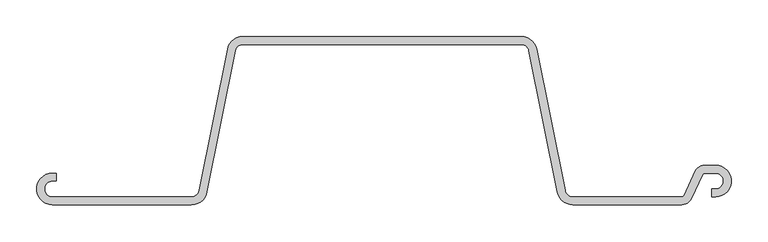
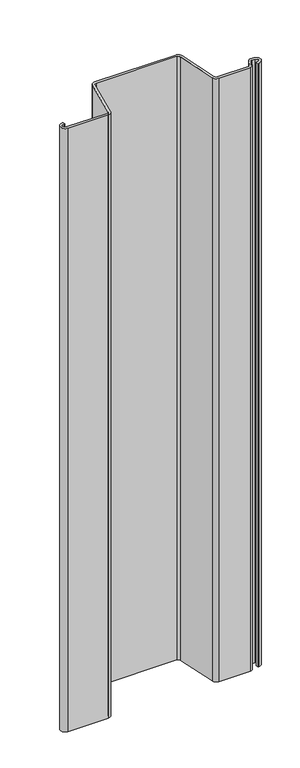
"""IFC4 building model written with IfcOpenShell, lengths in millimetres: proxy geometry, 鋼矢板10H型 : 鋼矢板10H型."""

from ifc_helpers import new_model, si_unit, point, frame, frame_2d, origin, place, context, project, spatial, polyline, circle_curve, trimmed, segment, composite_curve, outline, extrude, source, transform, mapped, element, save


def generic_models_baafeade(model_context):
    return source(origin(), model_context, "Body", "SweptSolid", [
        extrude(outline(composite_curve([segment(trimmed(circle_curve(frame_2d((409.1972607, -101.1142857)), 13.8857143), [point((421.7819917, -106.9826421))], [point((409.1972607, -115.0))], False, "CARTESIAN"), True, "CONTINUOUS"), segment(polyline([(409.1972607, -115.0), (260.2008232, -115.0)]), True, "CONTINUOUS"), segment(trimmed(circle_curve(frame_2d((260.2008232, -93.4)), 21.6), [point((260.2008232, -115.0))], [point((239.0202806, -97.6361085))], False, "CARTESIAN"), True, "CONTINUOUS"), segment(polyline([(239.0202806, -97.6361085), (200.3894481, 95.5180543)]), True, "CONTINUOUS"), segment(trimmed(circle_curve(frame_2d((189.7991768, 93.4)), 10.8), [point((200.3894481, 95.5180543))], [point((189.7991768, 104.2))], True, "CARTESIAN"), True, "CONTINUOUS"), segment(polyline([(189.7991768, 104.2), (-189.7991768, 104.2)]), True, "CONTINUOUS"), segment(trimmed(circle_curve(frame_2d((-189.7991768, 93.4)), 10.8), [point((-189.7991768, 104.2))], [point((-200.3894481, 95.5180543))], True, "CARTESIAN"), True, "CONTINUOUS"), segment(polyline([(-200.3894481, 95.5180543), (-239.0202806, -97.6361085)]), True, "CONTINUOUS"), segment(trimmed(circle_curve(frame_2d((-260.2008232, -93.4)), 21.6), [point((-239.0202806, -97.6361085))], [point((-260.2008232, -115.0))], False, "CARTESIAN"), True, "CONTINUOUS"), segment(polyline([(-260.2008232, -115.0), (-450.0, -115.0)]), True, "CONTINUOUS"), segment(trimmed(circle_curve(frame_2d((-450.0, -93.4)), 21.6), [point((-450.0, -115.0))], [point((-450.0, -71.8))], False, "CARTESIAN"), True, "CONTINUOUS"), segment(polyline([(-450.0, -71.8), (-445.0, -71.8), (-445.0, -82.6), (-450.0, -82.6)]), True, "CONTINUOUS"), segment(trimmed(circle_curve(frame_2d((-450.0, -93.4)), 10.8), [point((-450.0, -82.6))], [point((-450.0, -104.2))], True, "CARTESIAN"), True, "CONTINUOUS"), segment(polyline([(-450.0, -104.2), (-260.2008232, -104.2)]), True, "CONTINUOUS"), segment(trimmed(circle_curve(frame_2d((-260.2008232, -93.4)), 10.8), [point((-260.2008232, -104.2))], [point((-249.6105519, -95.5180543))], True, "CARTESIAN"), True, "CONTINUOUS"), segment(polyline([(-249.6105519, -95.5180543), (-210.9797194, 97.6361085)]), True, "CONTINUOUS"), segment(trimmed(circle_curve(frame_2d((-189.7991768, 93.4)), 21.6), [point((-210.9797194, 97.6361085))], [point((-189.7991768, 115.0))], False, "CARTESIAN"), True, "CONTINUOUS"), segment(polyline([(-189.7991768, 115.0), (189.7991768, 115.0)]), True, "CONTINUOUS"), segment(trimmed(circle_curve(frame_2d((189.7991768, 93.4)), 21.6), [point((189.7991768, 115.0))], [point((210.9797194, 97.6361085))], False, "CARTESIAN"), True, "CONTINUOUS"), segment(polyline([(210.9797194, 97.6361085), (249.6105519, -95.5180543)]), True, "CONTINUOUS"), segment(trimmed(circle_curve(frame_2d((260.2008232, -93.4)), 10.8), [point((249.6105519, -95.5180543))], [point((260.2008232, -104.2))], True, "CARTESIAN"), True, "CONTINUOUS"), segment(polyline([(260.2008232, -104.2), (409.1972607, -104.2)]), True, "CONTINUOUS"), segment(trimmed(circle_curve(frame_2d((409.1972607, -101.1142857)), 3.0857143), [point((409.1972607, -104.2))], [point((411.9938676, -102.4183649))], True, "CARTESIAN"), True, "CONTINUOUS"), segment(polyline([(411.9938676, -102.4183649), (427.569013, -69.0173579)]), True, "CONTINUOUS"), segment(trimmed(circle_curve(frame_2d((440.153744, -74.8857143)), 13.8857143), [point((427.569013, -69.0173579))], [point((440.153744, -61.0))], False, "CARTESIAN"), True, "CONTINUOUS"), segment(polyline([(440.153744, -61.0), (455.0, -61.0)]), True, "CONTINUOUS"), segment(trimmed(circle_curve(frame_2d((455.0, -82.6)), 21.6), [point((455.0, -61.0))], [point((455.0, -104.2))], False, "CARTESIAN"), True, "CONTINUOUS"), segment(polyline([(455.0, -104.2), (450.0, -104.2), (450.0, -93.4), (455.0, -93.4)]), True, "CONTINUOUS"), segment(trimmed(circle_curve(frame_2d((455.0, -82.6)), 10.8), [point((455.0, -93.4))], [point((455.0, -71.8))], True, "CARTESIAN"), True, "CONTINUOUS"), segment(polyline([(455.0, -71.8), (440.153744, -71.8)]), True, "CONTINUOUS"), segment(trimmed(circle_curve(frame_2d((440.153744, -74.8857143)), 3.0857143), [point((440.153744, -71.8))], [point((437.3571371, -73.5816351))], True, "CARTESIAN"), True, "CONTINUOUS"), segment(polyline([(437.3571371, -73.5816351), (421.7819917, -106.9826421)]), True, "CONTINUOUS")], self_intersect=False)), frame((0.0, 0.0, -3000.0), z_axis=(0.0, 0.0, 1.0), x_axis=(1.0, 0.0, 0.0)), (0.0, 0.0, 1.0), 3000.0),
    ])


if __name__ == "__main__":
    model = new_model("IFC4")
    model_context = context("Model", 3, world=origin())
    ifc_project = project(units=[si_unit("LENGTHUNIT", "METRE", prefix="MILLI")], contexts=[model_context])
    site = spatial("IfcSite", under=ifc_project)
    building = spatial("IfcBuilding", under=site)
    placement = place(None, origin())
    generic_models_shape = generic_models_baafeade(model_context)
    element("IfcBuildingElementProxy", 1, Name="鋼矢板10H型 : 鋼矢板10H型", ObjectType="鋼矢板10H型 : 鋼矢板10H型", at=placement, inside=building, context=model_context, shape_type="MappedRepresentation", body=[
        mapped(generic_models_shape, transform((0.0, 0.0, 0.0), x_axis=(1.0, 0.0, 0.0), y_axis=(0.0, 1.0, 0.0), z_axis=(0.0, 0.0, 1.0))),
    ])
    save(model, "model.ifc")
